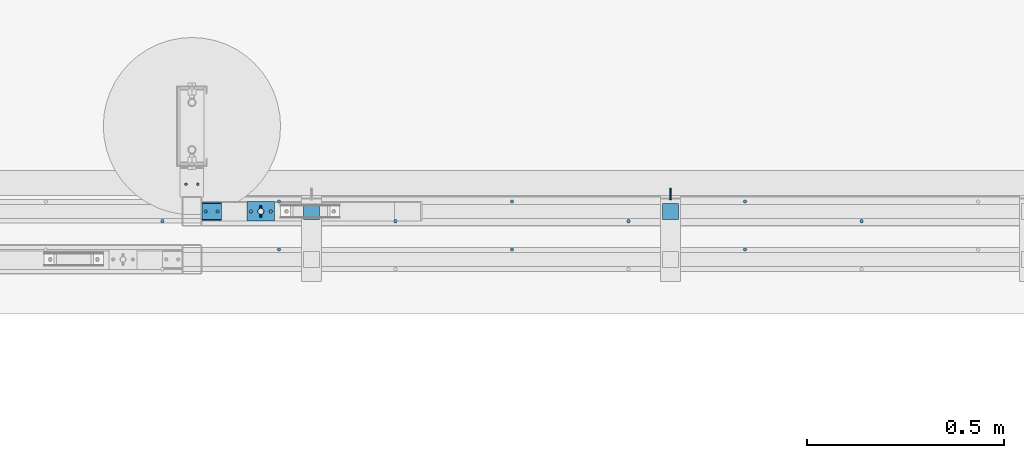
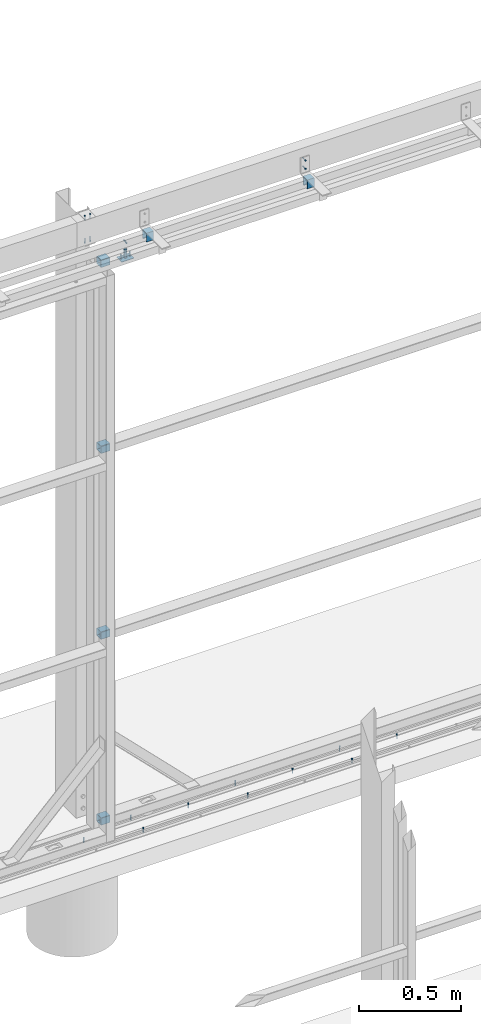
# One storey, part 52 of 91: 19 mechanical fasteners, 8 discrete accessories, 8 elements without a shape of their own.
"""IFC2X3 building model written with IfcOpenShell, lengths in millimetres."""

from ifc_helpers import new_model, si_unit, frame, origin_with_axes, origin_2d_with_axis, place, context, subcontext, project, spatial, polyline, hollow_rectangle, circle, c_section, outline, extrude, source, transform, mapped, material, type_object, element, aggregate, save


model = new_model("IFC2X3")

# Units and contexts
model_context = context("Model", 3, precision=1e-05, world=origin_with_axes())
body_context = subcontext(model_context, "Body", "Model", "MODEL_VIEW")
ifc_project = project(units=[si_unit("LENGTHUNIT", "METRE", prefix="MILLI"), si_unit("AREAUNIT", "SQUARE_METRE"), si_unit("VOLUMEUNIT", "CUBIC_METRE"), si_unit("MASSUNIT", "GRAM", prefix="KILO"), si_unit("TIMEUNIT", "SECOND"), si_unit("PLANEANGLEUNIT", "RADIAN"), si_unit("SOLIDANGLEUNIT", "STERADIAN"), si_unit("THERMODYNAMICTEMPERATUREUNIT", "DEGREE_CELSIUS"), si_unit("LUMINOUSINTENSITYUNIT", "LUMEN")], contexts=[model_context])

# Site, building, storey
site_placement = place(None, origin_with_axes())
site = spatial("IfcSite", under=ifc_project, at=site_placement, Name="Undefined", CompositionType="ELEMENT")
building_placement = place(site_placement, origin_with_axes())
building = spatial("IfcBuilding", under=site, at=building_placement, Name="Undefined", CompositionType="ELEMENT")
storey_placement = place(building_placement, origin_with_axes())
storey = spatial("IfcBuildingStorey", under=building, at=storey_placement, Name="Undefined", CompositionType="ELEMENT", Elevation=0.0)

# Assembly, discrete accessory
assembly_1_placement = place(storey_placement, origin_with_axes())
assembly_1 = element("IfcElementAssembly", 1, at=assembly_1_placement, inside=storey, Name="ROD", AssemblyPlace="NOTDEFINED", PredefinedType="RIGID_FRAME")
ifc_material_1 = material(Name="STEEL/250")
discrete_accessory_type_1 = type_object("IfcDiscreteAccessoryType", Name="PLATE")
discrete_accessory_1_placement = place(assembly_1_placement, frame((-110580.84, 87737.15, 3324.5), z_axis=(0.0, 0.0, 1.0), x_axis=(0.0, -1.0, 0.0)))
discrete_accessory_1 = element("IfcDiscreteAccessory", 2, at=discrete_accessory_1_placement, type_object=discrete_accessory_type_1, material=ifc_material_1, Name="PLATE", ObjectType="PLT3*50", context=body_context, shape_type="SweptSolid", body=[
    extrude(outline(polyline([(0.0, 0.0), (50.0, 0.0), (50.0, 70.0), (0.0, 70.0), (0.0, 0.0)])), frame((0.0, 0.0, -1.5), z_axis=(0.0, 0.0, 1.0), x_axis=(1.0, 0.0, 0.0)), (0.0, 0.0, 1.0), 3.0),
])

# Assembly, mechanical fasteners
assembly_2_placement = place(storey_placement, origin_with_axes())
assembly_2 = element("IfcElementAssembly", 3, at=assembly_2_placement, inside=storey, Name="SLIDING DOOR", AssemblyPlace="NOTDEFINED", PredefinedType="RIGID_FRAME")
ifc_material_2 = material(Name="TEK_11TPIM")
discrete_accessory_type_2 = type_object("IfcDiscreteAccessoryType", Name="Bolt assembly")
shared_shape_1 = source(origin_with_axes(), body_context, "Body", "SweptSolid", [
    extrude(circle(Radius=3.0, at=origin_2d_with_axis()), frame((0.0, 0.0, 0.0), z_axis=(0.0, 1.0, 0.0), x_axis=(1.0, 0.0, 0.0)), (0.0, 0.0, 1.0), 2.1),
    extrude(outline(polyline([(4.61880215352, 0.0), (2.30940107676, 4.00000000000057), (-2.30940107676, 4.00000000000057), (-4.61880215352, 0.0), (-2.30940107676, -4.00000000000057), (2.30940107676, -4.00000000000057), (4.61880215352, 0.0)])), frame((0.0, -5.0, 0.0), z_axis=(0.0, 1.0, 0.0), x_axis=(1.0, 0.0, 0.0)), (0.0, 0.0, 1.0), 5.0),
    extrude(circle(Radius=3.0, at=origin_2d_with_axis()), frame((0.0, 0.0, 0.0), z_axis=(0.0, 1.0, 0.0), x_axis=(1.0, 0.0, 0.0)), (0.0, 0.0, 1.0), 25.0),
    extrude(circle(Radius=3.0, at=origin_2d_with_axis()), frame((0.0, 2.00000000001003, 0.0), z_axis=(0.0, 1.0, 0.0), x_axis=(1.0, 0.0, 0.0)), (0.0, 0.0, 1.0), 0.1),
    extrude(outline(polyline([(3.46410161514, 0.0), (1.73205080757, 3.00000000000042), (-1.73205080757, 3.00000000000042), (-3.46410161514, 0.0), (-1.73205080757, -3.00000000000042), (1.73205080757, -3.00000000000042), (3.46410161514, 0.0)])), frame((0.0, 2.10000000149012, 0.0), z_axis=(0.0, 1.0, 0.0), x_axis=(1.0, 0.0, 0.0)), (0.0, 0.0, 1.0), 0.1),
])
mechanical_fastener_1_placement = place(assembly_2_placement, frame((-110520.84, 87712.15, 3326.0), z_axis=(0.0, 1.0, 0.0), x_axis=(-1.0, 0.0, 0.0)))
mechanical_fastener_1 = element("IfcMechanicalFastener", 4, at=mechanical_fastener_1_placement, type_object=discrete_accessory_type_2, material=ifc_material_2, Name="Bolt assembly", NominalDiameter=6.0, NominalLength=25.0, context=body_context, shape_type="MappedRepresentation", body=[
    mapped(shared_shape_1, transform((0.0, 0.0, 0.0))),
])
mechanical_fastener_2_placement = place(assembly_2_placement, frame((-110570.84, 87712.15, 3326.0), z_axis=(0.0, -1.0, 0.0), x_axis=(1.0, 0.0, 0.0)))
mechanical_fastener_2 = element("IfcMechanicalFastener", 5, at=mechanical_fastener_2_placement, type_object=discrete_accessory_type_2, material=ifc_material_2, Name="Bolt assembly", NominalDiameter=6.0, NominalLength=25.0, context=body_context, shape_type="MappedRepresentation", body=[
    mapped(shared_shape_1, transform((0.0, 0.0, 0.0))),
])
ifc_material_3 = material(Name="8.8S")
shared_shape_2 = source(origin_with_axes(), body_context, "Body", "SweptSolid", [
    extrude(circle(Radius=8.0, at=origin_2d_with_axis()), frame((0.0, 0.0, 0.0), z_axis=(0.0, 1.0, 0.0), x_axis=(1.0, 0.0, 0.0)), (0.0, 0.0, 1.0), 50.1),
])
mechanical_fastener_3_placement = place(assembly_2_placement, frame((-110545.84, 87712.15, 3326.0), z_axis=(0.0, -1.0, 0.0), x_axis=(1.0, 0.0, 0.0)))
mechanical_fastener_3 = element("IfcMechanicalFastener", 6, at=mechanical_fastener_3_placement, type_object=discrete_accessory_type_2, material=ifc_material_3, Name="Bolt assembly", NominalDiameter=10.0, NominalLength=50.0, context=body_context, shape_type="MappedRepresentation", body=[
    mapped(shared_shape_2, transform((0.0, 0.0, 0.0))),
])
aggregate(assembly_2, [mechanical_fastener_1, mechanical_fastener_2, mechanical_fastener_3])

# Discrete accessory
discrete_accessory_type_3 = type_object("IfcDiscreteAccessoryType", Name="SPRING PIN")
discrete_accessory_2_placement = place(assembly_1_placement, frame((-110545.84, 87697.15, 3421.0), z_axis=(1.0, 0.0, 0.0), x_axis=(0.0, 1.0, 0.0)))
discrete_accessory_2 = element("IfcDiscreteAccessory", 7, at=discrete_accessory_2_placement, type_object=discrete_accessory_type_3, material=ifc_material_1, Name="SPRING PIN", ObjectType="D6", context=body_context, shape_type="SweptSolid", body=[
    extrude(circle(Radius=3.0, at=origin_2d_with_axis()), frame((30.0, 0.0, 0.0), z_axis=(-1.0, 0.0, 0.0), x_axis=(0.0, -1.0, 0.0)), (0.0, 0.0, 1.0), 30.0),
])

aggregate(assembly_1, [discrete_accessory_2, discrete_accessory_1])

# Assembly, mechanical fastener
assembly_3_placement = place(storey_placement, origin_with_axes())
assembly_3 = element("IfcElementAssembly", 8, at=assembly_3_placement, inside=storey, Name="DOOR BRACKET", AssemblyPlace="NOTDEFINED", PredefinedType="RIGID_FRAME")
shared_shape_3 = source(origin_with_axes(), body_context, "Body", "SweptSolid", [
    extrude(circle(Radius=3.0, at=origin_2d_with_axis()), frame((0.0, -6.0, 0.0), z_axis=(0.0, 1.0, 0.0), x_axis=(1.0, 0.0, 0.0)), (0.0, 0.0, 1.0), 6.1),
    extrude(outline(polyline([(4.61880215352, 0.0), (2.30940107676, 4.00000000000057), (-2.30940107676, 4.00000000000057), (-4.61880215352, 0.0), (-2.30940107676, -4.00000000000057), (2.30940107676, -4.00000000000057), (4.61880215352, 0.0)])), frame((0.0, -11.1000000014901, 0.0), z_axis=(0.0, 1.0, 0.0), x_axis=(1.0, 0.0, 0.0)), (0.0, 0.0, 1.0), 5.0),
    extrude(circle(Radius=3.0, at=origin_2d_with_axis()), frame((0.0, -6.10000000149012, 0.0), z_axis=(0.0, 1.0, 0.0), x_axis=(1.0, 0.0, 0.0)), (0.0, 0.0, 1.0), 25.0),
    extrude(circle(Radius=3.0, at=origin_2d_with_axis()), frame((0.0, -6.10000000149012, 0.0), z_axis=(0.0, 1.0, 0.0), x_axis=(1.0, 0.0, 0.0)), (0.0, 0.0, 1.0), 0.1),
    extrude(circle(Radius=3.0, at=origin_2d_with_axis()), frame((0.0, 0.0, 0.0), z_axis=(0.0, 1.0, 0.0), x_axis=(1.0, 0.0, 0.0)), (0.0, 0.0, 1.0), 0.1),
    extrude(outline(polyline([(3.46410161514, 0.0), (1.73205080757, 3.00000000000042), (-1.73205080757, 3.00000000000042), (-3.46410161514, 0.0), (-1.73205080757, -3.00000000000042), (1.73205080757, -3.00000000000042), (3.46410161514, 0.0)])), frame((0.0, 0.1, 0.0), z_axis=(0.0, 1.0, 0.0), x_axis=(1.0, 0.0, 0.0)), (0.0, 0.0, 1.0), 0.1),
])
mechanical_fastener_4_placement = place(assembly_3_placement, frame((-109505.84, 87752.15, 3524.0), z_axis=(1.0, 0.0, 0.0), x_axis=(0.0, 0.0, -1.0)))
mechanical_fastener_4 = element("IfcMechanicalFastener", 9, at=mechanical_fastener_4_placement, type_object=discrete_accessory_type_2, material=ifc_material_2, Name="Bolt assembly", NominalDiameter=6.0, NominalLength=25.0, context=body_context, shape_type="MappedRepresentation", body=[
    mapped(shared_shape_3, transform((0.0, 0.0, 0.0))),
    mapped(shared_shape_3, transform((50.0, 0.0, 0.0))),
])

# Assembly, mechanical fasteners
assembly_4_placement = place(storey_placement, origin_with_axes())
assembly_4 = element("IfcElementAssembly", 10, at=assembly_4_placement, inside=storey, Name="SLIDING DOOR", AssemblyPlace="NOTDEFINED", PredefinedType="RIGID_FRAME")
shared_shape_4 = source(origin_with_axes(), body_context, "Body", "SweptSolid", [
    extrude(circle(Radius=3.0, at=origin_2d_with_axis()), frame((0.0, 0.0966666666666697, 0.0), z_axis=(0.0, 1.0, 0.0), x_axis=(1.0, 0.0, 0.0)), (0.0, 0.0, 1.0), 2.0),
    extrude(circle(Radius=3.0, at=origin_2d_with_axis()), frame((0.0, 2.4, 0.0), z_axis=(0.0, 1.0, 0.0), x_axis=(1.0, 0.0, 0.0)), (0.0, 0.0, 1.0), 1.7),
    extrude(outline(polyline([(4.61880215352, 0.0), (2.30940107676, 4.00000000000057), (-2.30940107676, 4.00000000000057), (-4.61880215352, 0.0), (-2.30940107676, -4.00000000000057), (2.30940107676, -4.00000000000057), (4.61880215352, 0.0)])), frame((0.0, -5.00333333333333, 0.0), z_axis=(0.0, 1.0, 0.0), x_axis=(1.0, 0.0, 0.0)), (0.0, 0.0, 1.0), 5.0),
    extrude(circle(Radius=3.0, at=origin_2d_with_axis()), frame((0.0, -0.0033333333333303, 0.0), z_axis=(0.0, 1.0, 0.0), x_axis=(1.0, 0.0, 0.0)), (0.0, 0.0, 1.0), 25.0),
    extrude(circle(Radius=3.0, at=origin_2d_with_axis()), frame((0.0, 4.10000002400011, 0.0), z_axis=(0.0, 1.0, 0.0), x_axis=(1.0, 0.0, 0.0)), (0.0, 0.0, 1.0), 0.1),
    extrude(outline(polyline([(3.46410161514, 0.0), (1.73205080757, 3.00000000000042), (-1.73205080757, 3.00000000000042), (-3.46410161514, 0.0), (-1.73205080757, -3.00000000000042), (1.73205080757, -3.00000000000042), (3.46410161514, 0.0)])), frame((0.0, 4.20000002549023, 0.0), z_axis=(0.0, 1.0, 0.0), x_axis=(1.0, 0.0, 0.0)), (0.0, 0.0, 1.0), 0.1),
])
mechanical_fastener_5_placement = place(assembly_4_placement, frame((-110685.84, 87712.15, 1097.34), z_axis=(0.0, -1.0, 0.0), x_axis=(1.0, 0.0, 0.0)))
mechanical_fastener_5 = element("IfcMechanicalFastener", 11, at=mechanical_fastener_5_placement, type_object=discrete_accessory_type_2, material=ifc_material_2, Name="Bolt assembly", NominalDiameter=6.0, NominalLength=25.0, context=body_context, shape_type="MappedRepresentation", body=[
    mapped(shared_shape_4, transform((0.0, 0.0, 0.0))),
    mapped(shared_shape_4, transform((30.0, 0.0, 0.0))),
])
ifc_material_4 = material(Name="TEK_16TPIM")
shared_shape_5 = source(origin_with_axes(), body_context, "Body", "SweptSolid", [
    extrude(circle(Radius=3.5, at=origin_2d_with_axis()), frame((0.0, 0.1, 0.0), z_axis=(0.0, 1.0, 0.0), x_axis=(1.0, 0.0, 0.0)), (0.0, 0.0, 1.0), 2.0),
    extrude(circle(Radius=3.5, at=origin_2d_with_axis()), frame((0.0, 2.4, 0.0), z_axis=(0.0, 1.0, 0.0), x_axis=(1.0, 0.0, 0.0)), (0.0, 0.0, 1.0), 1.7),
    extrude(outline(polyline([(4.04145188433, 0.0), (2.020725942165, 3.5000000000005), (-2.020725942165, 3.5000000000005), (-4.04145188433, 0.0), (-2.020725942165, -3.5000000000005), (2.020725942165, -3.5000000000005), (4.04145188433, 0.0)])), frame((0.0, -5.0, 0.0), z_axis=(0.0, 1.0, 0.0), x_axis=(1.0, 0.0, 0.0)), (0.0, 0.0, 1.0), 5.0),
    extrude(circle(Radius=2.5, at=origin_2d_with_axis()), frame((0.0, 0.0, 0.0), z_axis=(0.0, 1.0, 0.0), x_axis=(1.0, 0.0, 0.0)), (0.0, 0.0, 1.0), 25.0),
    extrude(circle(Radius=2.5, at=origin_2d_with_axis()), frame((0.0, 4.10000002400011, 0.0), z_axis=(0.0, 1.0, 0.0), x_axis=(1.0, 0.0, 0.0)), (0.0, 0.0, 1.0), 0.1),
    extrude(outline(polyline([(2.88675134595, 0.0), (1.443375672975, 2.50000000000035), (-1.443375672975, 2.50000000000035), (-2.88675134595, 0.0), (-1.443375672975, -2.50000000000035), (1.443375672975, -2.50000000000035), (2.88675134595, 0.0)])), frame((0.0, 4.20000002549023, 0.0), z_axis=(0.0, 1.0, 0.0), x_axis=(1.0, 0.0, 0.0)), (0.0, 0.0, 1.0), 0.1),
])
mechanical_fastener_6_placement = place(assembly_4_placement, frame((-110685.84, 87712.15, -17.0), z_axis=(0.0, -1.0, 0.0), x_axis=(1.0, 0.0, 0.0)))
mechanical_fastener_6 = element("IfcMechanicalFastener", 12, at=mechanical_fastener_6_placement, type_object=discrete_accessory_type_2, material=ifc_material_4, Name="Bolt assembly", NominalDiameter=5.0, NominalLength=25.0, context=body_context, shape_type="MappedRepresentation", body=[
    mapped(shared_shape_5, transform((0.0, 0.0, 0.0))),
    mapped(shared_shape_5, transform((30.0, 0.0, 0.0))),
])
shared_shape_6 = source(origin_with_axes(), body_context, "Body", "SweptSolid", [
    extrude(circle(Radius=3.0, at=origin_2d_with_axis()), frame((0.0, 0.1, 0.0), z_axis=(0.0, 1.0, 0.0), x_axis=(1.0, 0.0, 0.0)), (0.0, 0.0, 1.0), 2.0),
    extrude(circle(Radius=3.0, at=origin_2d_with_axis()), frame((0.0, 2.4, 0.0), z_axis=(0.0, 1.0, 0.0), x_axis=(1.0, 0.0, 0.0)), (0.0, 0.0, 1.0), 1.7),
    extrude(outline(polyline([(4.61880215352, 0.0), (2.30940107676, 4.00000000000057), (-2.30940107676, 4.00000000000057), (-4.61880215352, 0.0), (-2.30940107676, -4.00000000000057), (2.30940107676, -4.00000000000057), (4.61880215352, 0.0)])), frame((0.0, -5.0, 0.0), z_axis=(0.0, 1.0, 0.0), x_axis=(1.0, 0.0, 0.0)), (0.0, 0.0, 1.0), 5.0),
    extrude(circle(Radius=3.0, at=origin_2d_with_axis()), frame((0.0, 0.0, 0.0), z_axis=(0.0, 1.0, 0.0), x_axis=(1.0, 0.0, 0.0)), (0.0, 0.0, 1.0), 25.0),
    extrude(circle(Radius=3.0, at=origin_2d_with_axis()), frame((0.0, 4.10000002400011, 0.0), z_axis=(0.0, 1.0, 0.0), x_axis=(1.0, 0.0, 0.0)), (0.0, 0.0, 1.0), 0.1),
    extrude(outline(polyline([(3.46410161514, 0.0), (1.73205080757, 3.00000000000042), (-1.73205080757, 3.00000000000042), (-3.46410161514, 0.0), (-1.73205080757, -3.00000000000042), (1.73205080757, -3.00000000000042), (3.46410161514, 0.0)])), frame((0.0, 4.20000002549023, 0.0), z_axis=(0.0, 1.0, 0.0), x_axis=(1.0, 0.0, 0.0)), (0.0, 0.0, 1.0), 0.1),
])
mechanical_fastener_7_placement = place(assembly_4_placement, frame((-110685.84, 87712.15, 3326.0), z_axis=(0.0, -1.0, 0.0), x_axis=(1.0, 0.0, 0.0)))
mechanical_fastener_7 = element("IfcMechanicalFastener", 13, at=mechanical_fastener_7_placement, type_object=discrete_accessory_type_2, material=ifc_material_2, Name="Bolt assembly", NominalDiameter=6.0, NominalLength=25.0, context=body_context, shape_type="MappedRepresentation", body=[
    mapped(shared_shape_6, transform((0.0, 0.0, 0.0))),
    mapped(shared_shape_6, transform((30.0, 0.0, 0.0))),
])

assembly_5_placement = place(storey_placement, origin_with_axes())
assembly_5 = element("IfcElementAssembly", 14, at=assembly_5_placement, inside=storey, Name="DOOR TRACK", AssemblyPlace="NOTDEFINED", PredefinedType="RIGID_FRAME")
ifc_material_5 = material(Name="TEK_10TPII")
shared_shape_7 = source(origin_with_axes(), body_context, "Body", "SweptSolid", [
    extrude(circle(Radius=4.07999992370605, at=origin_2d_with_axis()), frame((0.0, 0.0, 0.0), z_axis=(0.0, 1.0, 0.0), x_axis=(1.0, 0.0, 0.0)), (0.0, 0.0, 1.0), 3.1),
    extrude(outline(polyline([(4.61880215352, 0.0), (2.30940107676, 4.00000000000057), (-2.30940107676, 4.00000000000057), (-4.61880215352, 0.0), (-2.30940107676, -4.00000000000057), (2.30940107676, -4.00000000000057), (4.61880215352, 0.0)])), frame((0.0, -5.0, 0.0), z_axis=(0.0, 1.0, 0.0), x_axis=(1.0, 0.0, 0.0)), (0.0, 0.0, 1.0), 5.0),
    extrude(circle(Radius=3.07999992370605, at=origin_2d_with_axis()), frame((0.0, 0.0, 0.0), z_axis=(0.0, 1.0, 0.0), x_axis=(1.0, 0.0, 0.0)), (0.0, 0.0, 1.0), 25.0),
    extrude(circle(Radius=3.0, at=origin_2d_with_axis()), frame((0.0, 3.0, 0.0), z_axis=(0.0, 1.0, 0.0), x_axis=(1.0, 0.0, 0.0)), (0.0, 0.0, 1.0), 0.1),
    extrude(outline(polyline([(3.46410161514, 0.0), (1.73205080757, 3.00000000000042), (-1.73205080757, 3.00000000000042), (-3.46410161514, 0.0), (-1.73205080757, -3.00000000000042), (1.73205080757, -3.00000000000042), (3.46410161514, 0.0)])), frame((0.0, 3.10000000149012, 0.0), z_axis=(0.0, 1.0, 0.0), x_axis=(1.0, 0.0, 0.0)), (0.0, 0.0, 1.0), 0.1),
])
mechanical_fastener_8_placement = place(assembly_5_placement, frame((-109020.44, 87687.151953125, -54.0), z_axis=(0.0, 1.0, 0.0), x_axis=(1.0, 0.0, 0.0)))
mechanical_fastener_8 = element("IfcMechanicalFastener", 15, at=mechanical_fastener_8_placement, type_object=discrete_accessory_type_2, material=ifc_material_5, Name="Bolt assembly", NominalDiameter=6.15999984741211, NominalLength=25.0, context=body_context, shape_type="MappedRepresentation", body=[
    mapped(shared_shape_7, transform((0.0, 0.0, 0.0))),
])
mechanical_fastener_9_placement = place(assembly_5_placement, frame((-109316.34, 87737.151953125, -54.0), z_axis=(0.0, 1.0, 0.0), x_axis=(1.0, 0.0, 0.0)))
mechanical_fastener_9 = element("IfcMechanicalFastener", 16, at=mechanical_fastener_9_placement, type_object=discrete_accessory_type_2, material=ifc_material_5, Name="Bolt assembly", NominalDiameter=6.15999984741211, NominalLength=25.0, context=body_context, shape_type="MappedRepresentation", body=[
    mapped(shared_shape_7, transform((0.0, 0.0, 0.0))),
])
mechanical_fastener_10_placement = place(assembly_5_placement, frame((-109612.24, 87687.151953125, -54.0), z_axis=(0.0, 1.0, 0.0), x_axis=(1.0, 0.0, 0.0)))
mechanical_fastener_10 = element("IfcMechanicalFastener", 17, at=mechanical_fastener_10_placement, type_object=discrete_accessory_type_2, material=ifc_material_5, Name="Bolt assembly", NominalDiameter=6.15999984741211, NominalLength=25.0, context=body_context, shape_type="MappedRepresentation", body=[
    mapped(shared_shape_7, transform((0.0, 0.0, 0.0))),
])
mechanical_fastener_11_placement = place(assembly_5_placement, frame((-109908.14, 87737.151953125, -54.0), z_axis=(0.0, 1.0, 0.0), x_axis=(1.0, 0.0, 0.0)))
mechanical_fastener_11 = element("IfcMechanicalFastener", 18, at=mechanical_fastener_11_placement, type_object=discrete_accessory_type_2, material=ifc_material_5, Name="Bolt assembly", NominalDiameter=6.15999984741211, NominalLength=25.0, context=body_context, shape_type="MappedRepresentation", body=[
    mapped(shared_shape_7, transform((0.0, 0.0, 0.0))),
])
mechanical_fastener_12_placement = place(assembly_5_placement, frame((-110204.04, 87687.151953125, -54.0), z_axis=(0.0, 1.0, 0.0), x_axis=(1.0, 0.0, 0.0)))
mechanical_fastener_12 = element("IfcMechanicalFastener", 19, at=mechanical_fastener_12_placement, type_object=discrete_accessory_type_2, material=ifc_material_5, Name="Bolt assembly", NominalDiameter=6.15999984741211, NominalLength=25.0, context=body_context, shape_type="MappedRepresentation", body=[
    mapped(shared_shape_7, transform((0.0, 0.0, 0.0))),
])
mechanical_fastener_13_placement = place(assembly_5_placement, frame((-110499.94, 87737.151953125, -54.0), z_axis=(0.0, 1.0, 0.0), x_axis=(1.0, 0.0, 0.0)))
mechanical_fastener_13 = element("IfcMechanicalFastener", 20, at=mechanical_fastener_13_placement, type_object=discrete_accessory_type_2, material=ifc_material_5, Name="Bolt assembly", NominalDiameter=6.15999984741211, NominalLength=25.0, context=body_context, shape_type="MappedRepresentation", body=[
    mapped(shared_shape_7, transform((0.0, 0.0, 0.0))),
])
mechanical_fastener_14_placement = place(assembly_5_placement, frame((-110795.84, 87687.151953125, -54.0), z_axis=(0.0, 1.0, 0.0), x_axis=(1.0, 0.0, 0.0)))
mechanical_fastener_14 = element("IfcMechanicalFastener", 21, at=mechanical_fastener_14_placement, type_object=discrete_accessory_type_2, material=ifc_material_5, Name="Bolt assembly", NominalDiameter=6.15999984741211, NominalLength=25.0, context=body_context, shape_type="MappedRepresentation", body=[
    mapped(shared_shape_7, transform((0.0, 0.0, 0.0))),
])
aggregate(assembly_5, [mechanical_fastener_8, mechanical_fastener_9, mechanical_fastener_10, mechanical_fastener_11, mechanical_fastener_12, mechanical_fastener_13, mechanical_fastener_14])

assembly_6_placement = place(storey_placement, origin_with_axes())
assembly_6 = element("IfcElementAssembly", 22, at=assembly_6_placement, inside=storey, Name="DOOR TRACK", AssemblyPlace="NOTDEFINED", PredefinedType="RIGID_FRAME")
mechanical_fastener_15_placement = place(assembly_6_placement, frame((-109316.34, 87615.151953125, -54.0), z_axis=(0.0, 1.0, 0.0), x_axis=(1.0, 0.0, 0.0)))
mechanical_fastener_15 = element("IfcMechanicalFastener", 23, at=mechanical_fastener_15_placement, type_object=discrete_accessory_type_2, material=ifc_material_5, Name="Bolt assembly", NominalDiameter=6.15999984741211, NominalLength=25.0, context=body_context, shape_type="MappedRepresentation", body=[
    mapped(shared_shape_7, transform((0.0, 0.0, 0.0))),
])
mechanical_fastener_16_placement = place(assembly_6_placement, frame((-109908.14, 87615.151953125, -54.0), z_axis=(0.0, 1.0, 0.0), x_axis=(1.0, 0.0, 0.0)))
mechanical_fastener_16 = element("IfcMechanicalFastener", 24, at=mechanical_fastener_16_placement, type_object=discrete_accessory_type_2, material=ifc_material_5, Name="Bolt assembly", NominalDiameter=6.15999984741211, NominalLength=25.0, context=body_context, shape_type="MappedRepresentation", body=[
    mapped(shared_shape_7, transform((0.0, 0.0, 0.0))),
])
mechanical_fastener_17_placement = place(assembly_6_placement, frame((-110499.94, 87615.151953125, -54.0), z_axis=(0.0, 1.0, 0.0), x_axis=(1.0, 0.0, 0.0)))
mechanical_fastener_17 = element("IfcMechanicalFastener", 25, at=mechanical_fastener_17_placement, type_object=discrete_accessory_type_2, material=ifc_material_5, Name="Bolt assembly", NominalDiameter=6.15999984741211, NominalLength=25.0, context=body_context, shape_type="MappedRepresentation", body=[
    mapped(shared_shape_7, transform((0.0, 0.0, 0.0))),
])
aggregate(assembly_6, [mechanical_fastener_15, mechanical_fastener_16, mechanical_fastener_17])

assembly_7_placement = place(storey_placement, origin_with_axes())
assembly_7 = element("IfcElementAssembly", 26, at=assembly_7_placement, inside=storey, Name="FASCIA BRACKET", AssemblyPlace="NOTDEFINED", PredefinedType="RIGID_FRAME")
shared_shape_8 = source(origin_with_axes(), body_context, "Body", "SweptSolid", [
    extrude(circle(Radius=3.5, at=origin_2d_with_axis()), frame((0.0, -2.59999694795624, 0.0), z_axis=(0.0, 1.0, 0.0), x_axis=(1.0, 0.0, 0.0)), (0.0, 0.0, 1.0), 1.7),
    extrude(outline(polyline([(4.04145188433, 0.0), (2.020725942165, 3.5000000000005), (-2.020725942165, 3.5000000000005), (-4.04145188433, 0.0), (-2.020725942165, -3.5000000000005), (2.020725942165, -3.5000000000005), (4.04145188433, 0.0)])), frame((0.0, -7.69999694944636, 0.0), z_axis=(0.0, 1.0, 0.0), x_axis=(1.0, 0.0, 0.0)), (0.0, 0.0, 1.0), 5.0),
    extrude(circle(Radius=2.5, at=origin_2d_with_axis()), frame((0.0, -2.69999694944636, 0.0), z_axis=(0.0, 1.0, 0.0), x_axis=(1.0, 0.0, 0.0)), (0.0, 0.0, 1.0), 25.0),
    extrude(circle(Radius=2.5, at=origin_2d_with_axis()), frame((0.0, -2.69999694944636, 0.0), z_axis=(0.0, 1.0, 0.0), x_axis=(1.0, 0.0, 0.0)), (0.0, 0.0, 1.0), 0.1),
    extrude(circle(Radius=2.5, at=origin_2d_with_axis()), frame((0.0, -1.0, 0.0), z_axis=(0.0, 1.0, 0.0), x_axis=(1.0, 0.0, 0.0)), (0.0, 0.0, 1.0), 0.1),
    extrude(outline(polyline([(2.88675134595, 0.0), (1.443375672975, 2.50000000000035), (-1.443375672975, 2.50000000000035), (-2.88675134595, 0.0), (-1.443375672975, -2.50000000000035), (1.443375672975, -2.50000000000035), (2.88675134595, 0.0)])), frame((0.0, -0.899996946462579, 0.0), z_axis=(0.0, 1.0, 0.0), x_axis=(1.0, 0.0, 0.0)), (0.0, 0.0, 1.0), 0.1),
])
mechanical_fastener_18_placement = place(assembly_7_placement, frame((-110720.839999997, 87781.1443174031, 3444.01835367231), z_axis=(-1.0, 0.0, 0.0), x_axis=(0.0, -1.0, 0.0)))
mechanical_fastener_18 = element("IfcMechanicalFastener", 27, at=mechanical_fastener_18_placement, type_object=discrete_accessory_type_2, material=ifc_material_4, Name="Bolt assembly", NominalDiameter=5.0, NominalLength=25.0, context=body_context, shape_type="MappedRepresentation", body=[
    mapped(shared_shape_8, transform((0.0, 0.0, -15.0))),
    mapped(shared_shape_8, transform((0.0, 0.0, 15.0))),
])
mechanical_fastener_19_placement = place(assembly_7_placement, frame((-110720.839999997, 87781.1444547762, 3596.01835367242), z_axis=(1.0, 0.0, 0.0), x_axis=(0.0, -1.0, 0.0)))
mechanical_fastener_19 = element("IfcMechanicalFastener", 28, at=mechanical_fastener_19_placement, type_object=discrete_accessory_type_2, material=ifc_material_4, Name="Bolt assembly", NominalDiameter=5.0, NominalLength=25.0, context=body_context, shape_type="MappedRepresentation", body=[
    mapped(shared_shape_8, transform((0.0, 0.0, -15.0))),
    mapped(shared_shape_8, transform((0.0, 0.0, 15.0))),
])
aggregate(assembly_7, [mechanical_fastener_18, mechanical_fastener_19])

# Discrete accessory
discrete_accessory_type_4 = type_object("IfcDiscreteAccessoryType", Name="SLIDING DOOR BRACKET")
discrete_accessory_3_placement = place(assembly_3_placement, frame((-109525.84, 87712.15, 3417.5), z_axis=(0.0, -1.0, 0.0), x_axis=(1.0, 0.0, 0.0)))
discrete_accessory_3 = element("IfcDiscreteAccessory", 29, at=discrete_accessory_3_placement, type_object=discrete_accessory_type_4, material=ifc_material_1, Name="SLIDING DOOR BRACKET", ObjectType="CC41-1.5-7-53", context=body_context, shape_type="SweptSolid", body=[
    extrude(c_section(Depth=41.0, Width=53.0, WallThickness=1.5, Girth=7.0, at=origin_2d_with_axis()), frame((40.0, 0.0, 0.0), z_axis=(-1.0, 0.0, 0.0), x_axis=(0.0, -1.0, 0.0)), (0.0, 0.0, 1.0), 40.0),
])

aggregate(assembly_3, [mechanical_fastener_4, discrete_accessory_3])

# Assembly, discrete accessory
assembly_8_placement = place(storey_placement, origin_with_axes())
assembly_8 = element("IfcElementAssembly", 30, at=assembly_8_placement, inside=storey, Name="DOOR BRACKET", AssemblyPlace="NOTDEFINED", PredefinedType="RIGID_FRAME")
discrete_accessory_4_placement = place(assembly_8_placement, frame((-110437.09, 87712.15, 3417.5), z_axis=(0.0, -1.0, 0.0), x_axis=(1.0, 0.0, 0.0)))
discrete_accessory_4 = element("IfcDiscreteAccessory", 31, at=discrete_accessory_4_placement, type_object=discrete_accessory_type_4, material=ifc_material_1, Name="SLIDING DOOR BRACKET", ObjectType="CC41-1.5-7-53", context=body_context, shape_type="SweptSolid", body=[
    extrude(c_section(Depth=41.0, Width=53.0, WallThickness=1.5, Girth=7.0, at=origin_2d_with_axis()), frame((40.0, 0.0, 0.0), z_axis=(-1.0, 0.0, 0.0), x_axis=(0.0, -1.0, 0.0)), (0.0, 0.0, 1.0), 40.0),
])
aggregate(assembly_8, [discrete_accessory_4])

# Discrete accessory
ifc_material_6 = material(Name="STEEL/300")
discrete_accessory_type_5 = type_object("IfcDiscreteAccessoryType", Name="SLIDING DOOR")
discrete_accessory_5_placement = place(assembly_4_placement, frame((-110645.84, 87712.15, 3351.0), z_axis=(0.0, -1.0, 0.0), x_axis=(-1.0, 0.0, 0.0)))
discrete_accessory_5 = element("IfcDiscreteAccessory", 32, at=discrete_accessory_5_placement, type_object=discrete_accessory_type_5, material=ifc_material_6, Name="SLIDING DOOR", ObjectType="SHS:45X45X1.6", context=body_context, shape_type="SweptSolid", body=[
    extrude(hollow_rectangle(XDim=45.0, YDim=45.0, WallThickness=1.600000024, InnerFilletRadius=1.600000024, OuterFilletRadius=3.200000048, at=origin_2d_with_axis()), frame((50.0, 0.0, 0.0), z_axis=(-1.0, 0.0, 0.0), x_axis=(0.0, -1.0, 0.0)), (0.0, 0.0, 1.0), 50.0),
])

discrete_accessory_6_placement = place(assembly_4_placement, frame((-110645.84, 87712.15, 2236.66), z_axis=(0.0, -1.0, 0.0), x_axis=(-1.0, 0.0, 0.0)))
discrete_accessory_6 = element("IfcDiscreteAccessory", 33, at=discrete_accessory_6_placement, type_object=discrete_accessory_type_5, material=ifc_material_6, Name="SLIDING DOOR", ObjectType="SHS:45X45X1.6", context=body_context, shape_type="SweptSolid", body=[
    extrude(hollow_rectangle(XDim=45.0, YDim=45.0, WallThickness=1.600000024, InnerFilletRadius=1.600000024, OuterFilletRadius=3.200000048, at=origin_2d_with_axis()), frame((50.0, 0.0, 0.0), z_axis=(-1.0, 0.0, 0.0), x_axis=(0.0, -1.0, 0.0)), (0.0, 0.0, 1.0), 50.0),
])

discrete_accessory_7_placement = place(assembly_4_placement, frame((-110645.84, 87712.15, 1122.34), z_axis=(0.0, -1.0, 0.0), x_axis=(-1.0, 0.0, 0.0)))
discrete_accessory_7 = element("IfcDiscreteAccessory", 34, at=discrete_accessory_7_placement, type_object=discrete_accessory_type_5, material=ifc_material_6, Name="SLIDING DOOR", ObjectType="SHS:45X45X1.6", context=body_context, shape_type="SweptSolid", body=[
    extrude(hollow_rectangle(XDim=45.0, YDim=45.0, WallThickness=1.600000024, InnerFilletRadius=1.600000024, OuterFilletRadius=3.200000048, at=origin_2d_with_axis()), frame((50.0, 0.0, 0.0), z_axis=(-1.0, 0.0, 0.0), x_axis=(0.0, -1.0, 0.0)), (0.0, 0.0, 1.0), 50.0),
])

discrete_accessory_8_placement = place(assembly_4_placement, frame((-110645.84, 87712.15, 8.0), z_axis=(0.0, -1.0, 0.0), x_axis=(-1.0, 0.0, 0.0)))
discrete_accessory_8 = element("IfcDiscreteAccessory", 35, at=discrete_accessory_8_placement, type_object=discrete_accessory_type_5, material=ifc_material_6, Name="SLIDING DOOR", ObjectType="SHS:45X45X1.6", context=body_context, shape_type="SweptSolid", body=[
    extrude(hollow_rectangle(XDim=45.0, YDim=45.0, WallThickness=1.600000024, InnerFilletRadius=1.600000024, OuterFilletRadius=3.200000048, at=origin_2d_with_axis()), frame((50.0, 0.0, 0.0), z_axis=(-1.0, 0.0, 0.0), x_axis=(0.0, -1.0, 0.0)), (0.0, 0.0, 1.0), 50.0),
])

aggregate(assembly_4, [mechanical_fastener_5, mechanical_fastener_6, mechanical_fastener_7, discrete_accessory_5, discrete_accessory_6, discrete_accessory_7, discrete_accessory_8])

save(model, "model.ifc")
